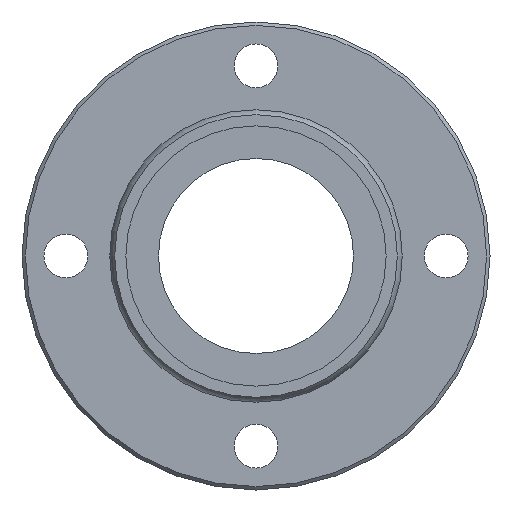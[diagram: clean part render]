
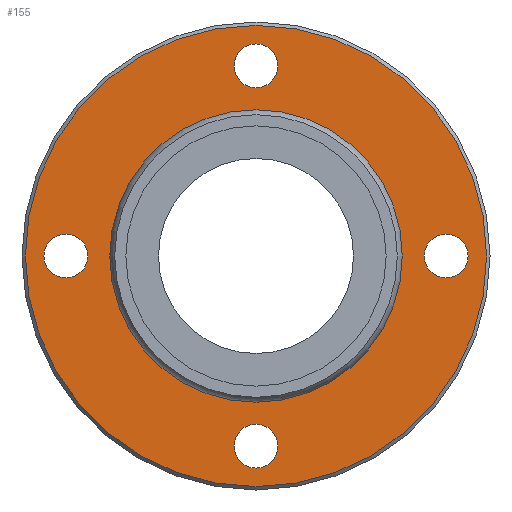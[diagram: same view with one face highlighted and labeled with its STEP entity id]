
A CAD part, left-side view. The second image highlights one B-rep face of the part: STEP entity #155.
In plain terms, the highlighted planar face has unit normal (-1, 0, 0).
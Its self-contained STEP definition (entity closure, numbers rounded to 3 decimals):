
#60=CARTESIAN_POINT('',(18.,0.,47.3));
#61=VERTEX_POINT('',#60);
#62=CARTESIAN_POINT('',(18.,0.0,0.0));
#63=DIRECTION('',(1.0,0.0,0.0));
#64=DIRECTION('',(0.0,0.0,-1.0));
#65=AXIS2_PLACEMENT_3D('',#62,#63,#64);
#66=CIRCLE('',#65,47.3);
#67=EDGE_CURVE('',#61,#61,#66,.T.);
#92=CARTESIAN_POINT('',(18.,0.0,38.834));
#93=DIRECTION('',(-1.0,0.0,0.0));
#94=DIRECTION('',(0.0,0.0,1.0));
#95=AXIS2_PLACEMENT_3D('',#92,#93,#94);
#96=PLANE('',#95);
#97=ORIENTED_EDGE('',*,*,#67,.F.);
#98=EDGE_LOOP('',(#97));
#99=FACE_OUTER_BOUND('',#98,.T.);
#100=CARTESIAN_POINT('',(18.,0.0,29.668));
#101=VERTEX_POINT('',#100);
#102=CARTESIAN_POINT('',(18.,0.0,0.0));
#103=DIRECTION('',(-1.0,0.0,0.0));
#104=DIRECTION('',(0.0,0.0,1.0));
#105=AXIS2_PLACEMENT_3D('',#102,#103,#104);
#106=CIRCLE('',#105,29.668);
#107=EDGE_CURVE('',#101,#101,#106,.T.);
#108=ORIENTED_EDGE('',*,*,#107,.F.);
#109=EDGE_LOOP('',(#108));
#110=FACE_BOUND('',#109,.T.);
#111=CARTESIAN_POINT('',(18.,34.5,0.));
#112=VERTEX_POINT('',#111);
#113=CARTESIAN_POINT('',(18.,39.0,0.));
#114=DIRECTION('',(1.0,0.0,0.0));
#115=DIRECTION('',(0.0,1.0,0.0));
#116=AXIS2_PLACEMENT_3D('',#113,#114,#115);
#117=CIRCLE('',#116,4.5);
#118=EDGE_CURVE('',#112,#112,#117,.T.);
#119=ORIENTED_EDGE('',*,*,#118,.T.);
#120=EDGE_LOOP('',(#119));
#121=FACE_BOUND('',#120,.T.);
#122=CARTESIAN_POINT('',(18.,-43.5,0.));
#123=VERTEX_POINT('',#122);
#124=CARTESIAN_POINT('',(18.,-39.0,0.0));
#125=DIRECTION('',(1.0,0.0,0.0));
#126=DIRECTION('',(0.0,1.0,0.0));
#127=AXIS2_PLACEMENT_3D('',#124,#125,#126);
#128=CIRCLE('',#127,4.5);
#129=EDGE_CURVE('',#123,#123,#128,.T.);
#130=ORIENTED_EDGE('',*,*,#129,.T.);
#131=EDGE_LOOP('',(#130));
#132=FACE_BOUND('',#131,.T.);
#133=CARTESIAN_POINT('',(18.,-4.5,39.0));
#134=VERTEX_POINT('',#133);
#135=CARTESIAN_POINT('',(18.,0.,39.0));
#136=DIRECTION('',(1.0,0.0,0.0));
#137=DIRECTION('',(0.0,1.0,0.0));
#138=AXIS2_PLACEMENT_3D('',#135,#136,#137);
#139=CIRCLE('',#138,4.5);
#140=EDGE_CURVE('',#134,#134,#139,.T.);
#141=ORIENTED_EDGE('',*,*,#140,.T.);
#142=EDGE_LOOP('',(#141));
#143=FACE_BOUND('',#142,.T.);
#144=CARTESIAN_POINT('',(18.,-4.5,-39.0));
#145=VERTEX_POINT('',#144);
#146=CARTESIAN_POINT('',(18.,0.,-39.0));
#147=DIRECTION('',(1.0,0.0,0.0));
#148=DIRECTION('',(0.0,1.0,0.0));
#149=AXIS2_PLACEMENT_3D('',#146,#147,#148);
#150=CIRCLE('',#149,4.5);
#151=EDGE_CURVE('',#145,#145,#150,.T.);
#152=ORIENTED_EDGE('',*,*,#151,.T.);
#153=EDGE_LOOP('',(#152));
#154=FACE_BOUND('',#153,.T.);
#155=ADVANCED_FACE('',(#99,#110,#121,#132,#143,#154),#96,.T.);
